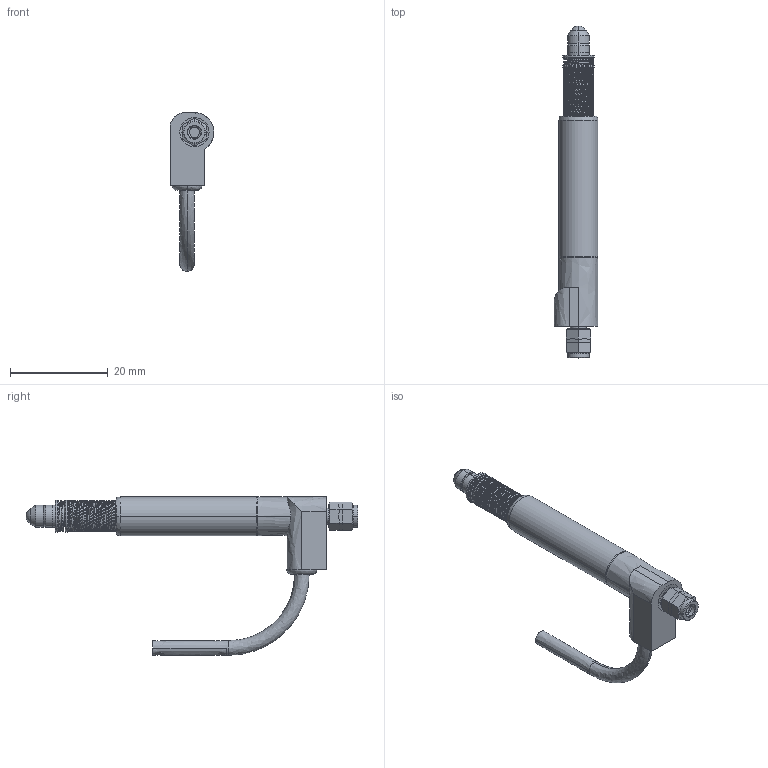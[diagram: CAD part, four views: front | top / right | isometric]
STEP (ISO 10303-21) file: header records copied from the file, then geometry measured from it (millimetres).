
FILE_DESCRIPTION((''),'2;1');
FILE_NAME('WI_2MM-T_ASM','2019-07-31T',('ESCHE'),(''),'CREO PARAMETRIC BY PTC INC, 2017170','CREO PARAMETRIC BY PTC INC, 2017170','');
FILE_SCHEMA(('AUTOMOTIVE_DESIGN { 1 0 10303 214 1 1 1 1 }'));
Products named in the file (3): START_OF_MEASURING_RANGE; END_OF_MEASURING_RANGE; WI_2MM-T_ASM
Assembly tree (2 placements, depth 2):
  WI_2MM-T_ASM
    START_OF_MEASURING_RANGE
    END_OF_MEASURING_RANGE
Bounding box: 9 x 68 x 32.5 mm (x, y, z)
Volume: 6469.6 mm3; surface area: 5098.1 mm2
Topology: 2 solids, 2 shells, 223 faces, 509 edges, 309 vertices
Faces by surface type: bspline 223
Entity records: 91182 total; most frequent: CARTESIAN_POINT 86484, ORIENTED_EDGE 1006, DIRECTION 664, EDGE_CURVE 503, VERTEX_POINT 309, AXIS2_PLACEMENT_3D 256, EDGE_LOOP 252, CIRCLE 251
